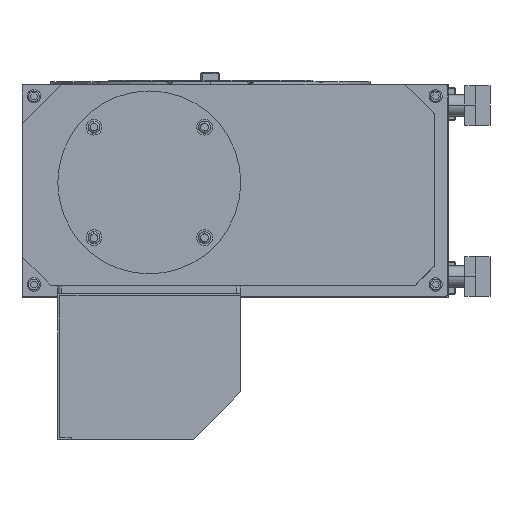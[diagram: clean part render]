
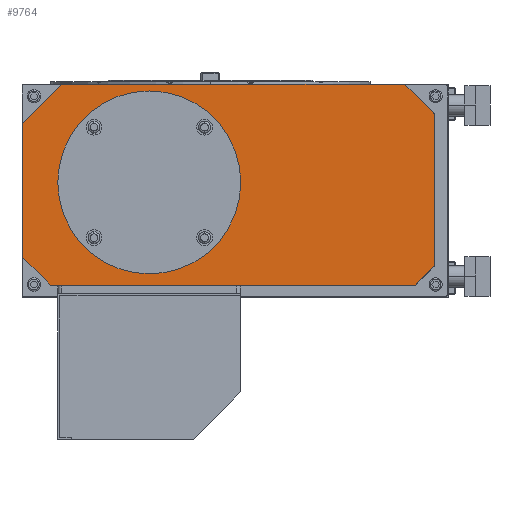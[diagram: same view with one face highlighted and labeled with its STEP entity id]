
A CAD part, left-side view. The second image highlights one B-rep face of the part: STEP entity #9764.
In plain terms, the highlighted planar face has unit normal (-1, 0, 0) as drawn and (0, 0, 1) by its records, which use the part's own axes.
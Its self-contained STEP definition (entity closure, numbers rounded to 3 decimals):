
#70 = CARTESIAN_POINT ( 'NONE',  ( -136.172, 10., 190. ) ) ;
#833 = VERTEX_POINT ( 'NONE', #70 ) ;
#1312 = ORIENTED_EDGE ( 'NONE', *, *, #115679, .F. ) ;
#2142 = ORIENTED_EDGE ( 'NONE', *, *, #82660, .F. ) ;
#2737 = ORIENTED_EDGE ( 'NONE', *, *, #99606, .F. ) ;
#2756 = DIRECTION ( 'NONE',  ( -1., 0., 0. ) ) ;
#5447 = AXIS2_PLACEMENT_3D ( 'NONE', #106042, #50886, #115313 ) ;
#5922 = DIRECTION ( 'NONE',  ( -0.707, -0.707, 0. ) ) ;
#7429 = LINE ( 'NONE', #81664, #78033 ) ;
#8724 = AXIS2_PLACEMENT_3D ( 'NONE', #83187, #28112, #92481 ) ;
#9759 = CARTESIAN_POINT ( 'NONE',  ( -2., 32.828, 190. ) ) ;
#9764 = ADVANCED_FACE ( 'NONE', ( #69126 ), #53321, .T. ) ;
#9855 = CARTESIAN_POINT ( 'NONE',  ( -30.828, 319., 190. ) ) ;
#10029 = CARTESIAN_POINT ( 'NONE',  ( -29.414, 320.414, 190. ) ) ;
#10157 = CARTESIAN_POINT ( 'NONE',  ( -152., 25.828, 190. ) ) ;
#10906 = DIRECTION ( 'NONE',  ( 0., 0., -1. ) ) ;
#11047 = VERTEX_POINT ( 'NONE', #112894 ) ;
#11217 = LINE ( 'NONE', #73168, #109245 ) ;
#12023 = CARTESIAN_POINT ( 'NONE',  ( -136.172, 12., 190. ) ) ;
#12026 = CARTESIAN_POINT ( 'NONE',  ( -152., 298.172, 190. ) ) ;
#16436 = LINE ( 'NONE', #61078, #38139 ) ;
#17656 = CARTESIAN_POINT ( 'NONE',  ( -130.586, 320.414, 190. ) ) ;
#19075 = DIRECTION ( 'NONE',  ( -1., 0., 0. ) ) ;
#19176 = DIRECTION ( 'NONE',  ( -1., 0., 0. ) ) ;
#19299 = VECTOR ( 'NONE', #30274, 1000. ) ;
#21362 = DIRECTION ( 'NONE',  ( -1., 0., 0. ) ) ;
#23260 = LINE ( 'NONE', #102274, #26171 ) ;
#23529 = AXIS2_PLACEMENT_3D ( 'NONE', #113099, #57937, #2756 ) ;
#25446 = CARTESIAN_POINT ( 'NONE',  ( -0.586, 291.586, 190. ) ) ;
#26051 = EDGE_CURVE ( 'NONE', #90408, #114547, #26841, .T. ) ;
#26171 = VECTOR ( 'NONE', #28585, 1000. ) ;
#26584 = DIRECTION ( 'NONE',  ( 0.707, 0.707, 0. ) ) ;
#26841 = CIRCLE ( 'NONE', #8724, 2. ) ;
#28112 = DIRECTION ( 'NONE',  ( 0., 0., -1. ) ) ;
#28585 = DIRECTION ( 'NONE',  ( 0., 1., 0. ) ) ;
#30274 = DIRECTION ( 'NONE',  ( 0.707, -0.707, 0. ) ) ;
#30583 = LINE ( 'NONE', #68235, #79455 ) ;
#31243 = DIRECTION ( 'NONE',  ( -1., 0., 0. ) ) ;
#32906 = ORIENTED_EDGE ( 'NONE', *, *, #45164, .F. ) ;
#34053 = CIRCLE ( 'NONE', #5447, 2. ) ;
#35681 = VERTEX_POINT ( 'NONE', #93397 ) ;
#35834 = VERTEX_POINT ( 'NONE', #105021 ) ;
#36034 = CIRCLE ( 'NONE', #118953, 2. ) ;
#37351 = EDGE_CURVE ( 'NONE', #102052, #111057, #41422, .T. ) ;
#38139 = VECTOR ( 'NONE', #5922, 1000. ) ;
#38474 = AXIS2_PLACEMENT_3D ( 'NONE', #66140, #10906, #75385 ) ;
#40043 = CARTESIAN_POINT ( 'NONE',  ( -152., 25., 190. ) ) ;
#41422 = CIRCLE ( 'NONE', #105927, 2. ) ;
#43461 = EDGE_CURVE ( 'NONE', #112045, #88260, #16436, .T. ) ;
#44236 = CIRCLE ( 'NONE', #62691, 2. ) ;
#45164 = EDGE_CURVE ( 'NONE', #117055, #93607, #55633, .T. ) ;
#46344 = EDGE_CURVE ( 'NONE', #11047, #102052, #82510, .T. ) ;
#46790 = CARTESIAN_POINT ( 'NONE',  ( 0., 32.828, 190. ) ) ;
#47080 = CARTESIAN_POINT ( 'NONE',  ( -0.586, 31.414, 190. ) ) ;
#47467 = ORIENTED_EDGE ( 'NONE', *, *, #37351, .F. ) ;
#49266 = DIRECTION ( 'NONE',  ( -0.707, 0.707, 0. ) ) ;
#50238 = ORIENTED_EDGE ( 'NONE', *, *, #67127, .F. ) ;
#50886 = DIRECTION ( 'NONE',  ( 0., 0., -1. ) ) ;
#51127 = CARTESIAN_POINT ( 'NONE',  ( -150., 25.828, 190. ) ) ;
#51226 = EDGE_CURVE ( 'NONE', #88260, #35834, #34053, .T. ) ;
#53321 = PLANE ( 'NONE',  #83913 ) ;
#54136 = CIRCLE ( 'NONE', #110164, 2. ) ;
#54645 = DIRECTION ( 'NONE',  ( 1., 0., 0. ) ) ;
#55207 = VECTOR ( 'NONE', #49266, 1000. ) ;
#55633 = CIRCLE ( 'NONE', #23529, 2. ) ;
#57642 = EDGE_CURVE ( 'NONE', #111057, #109935, #23260, .T. ) ;
#57937 = DIRECTION ( 'NONE',  ( 0., 0., -1. ) ) ;
#58246 = ORIENTED_EDGE ( 'NONE', *, *, #26051, .F. ) ;
#59845 = ORIENTED_EDGE ( 'NONE', *, *, #57642, .F. ) ;
#60400 = DIRECTION ( 'NONE',  ( -1., 0., 0. ) ) ;
#61078 = CARTESIAN_POINT ( 'NONE',  ( 0., 32., 190. ) ) ;
#61571 = CARTESIAN_POINT ( 'NONE',  ( -30.828, 321., 190. ) ) ;
#62691 = AXIS2_PLACEMENT_3D ( 'NONE', #9855, #74321, #19176 ) ;
#66140 = CARTESIAN_POINT ( 'NONE',  ( -150., 298.172, 190. ) ) ;
#67127 = EDGE_CURVE ( 'NONE', #102729, #117055, #89855, .T. ) ;
#68235 = CARTESIAN_POINT ( 'NONE',  ( -22., 10., 190. ) ) ;
#68361 = EDGE_CURVE ( 'NONE', #35834, #833, #30583, .T. ) ;
#69126 = FACE_OUTER_BOUND ( 'NONE', #106912, .T. ) ;
#71073 = DIRECTION ( 'NONE',  ( 0., 0., 1. ) ) ;
#71491 = ORIENTED_EDGE ( 'NONE', *, *, #86822, .F. ) ;
#73045 = CIRCLE ( 'NONE', #38474, 2. ) ;
#73168 = CARTESIAN_POINT ( 'NONE',  ( -30., 321., 190. ) ) ;
#74227 = DIRECTION ( 'NONE',  ( 0., 0., -1. ) ) ;
#74321 = DIRECTION ( 'NONE',  ( 0., 0., -1. ) ) ;
#75385 = DIRECTION ( 'NONE',  ( -1., 0., 0. ) ) ;
#76454 = DIRECTION ( 'NONE',  ( 0., 0., -1. ) ) ;
#78033 = VECTOR ( 'NONE', #26584, 1000. ) ;
#79455 = VECTOR ( 'NONE', #31243, 1000. ) ;
#79826 = CARTESIAN_POINT ( 'NONE',  ( -151.414, 24.414, 190. ) ) ;
#80510 = ORIENTED_EDGE ( 'NONE', *, *, #105517, .F. ) ;
#81664 = CARTESIAN_POINT ( 'NONE',  ( -130., 321., 190. ) ) ;
#82510 = LINE ( 'NONE', #40043, #55207 ) ;
#82660 = EDGE_CURVE ( 'NONE', #90236, #102729, #44236, .T. ) ;
#83143 = ORIENTED_EDGE ( 'NONE', *, *, #51226, .F. ) ;
#83187 = CARTESIAN_POINT ( 'NONE',  ( -129.172, 319., 190. ) ) ;
#83913 = AXIS2_PLACEMENT_3D ( 'NONE', #99288, #71073, #117740 ) ;
#85558 = EDGE_CURVE ( 'NONE', #833, #11047, #54136, .T. ) ;
#85782 = CARTESIAN_POINT ( 'NONE',  ( -21.414, 10.586, 190. ) ) ;
#86822 = EDGE_CURVE ( 'NONE', #35681, #90408, #7429, .T. ) ;
#88260 = VERTEX_POINT ( 'NONE', #85782 ) ;
#89327 = ORIENTED_EDGE ( 'NONE', *, *, #96204, .F. ) ;
#89855 = LINE ( 'NONE', #95053, #19299 ) ;
#90236 = VERTEX_POINT ( 'NONE', #61571 ) ;
#90408 = VERTEX_POINT ( 'NONE', #17656 ) ;
#92481 = DIRECTION ( 'NONE',  ( -1., 0., 0. ) ) ;
#93397 = CARTESIAN_POINT ( 'NONE',  ( -151.414, 299.586, 190. ) ) ;
#93607 = VERTEX_POINT ( 'NONE', #102068 ) ;
#94072 = VERTEX_POINT ( 'NONE', #46790 ) ;
#95053 = CARTESIAN_POINT ( 'NONE',  ( -30., 321., 190. ) ) ;
#96204 = EDGE_CURVE ( 'NONE', #109935, #35681, #73045, .T. ) ;
#97517 = CARTESIAN_POINT ( 'NONE',  ( 0., 291., 190. ) ) ;
#99243 = CARTESIAN_POINT ( 'NONE',  ( -129.172, 321., 190. ) ) ;
#99288 = CARTESIAN_POINT ( 'NONE',  ( 0., 0., 190. ) ) ;
#99606 = EDGE_CURVE ( 'NONE', #94072, #112045, #36034, .T. ) ;
#102052 = VERTEX_POINT ( 'NONE', #79826 ) ;
#102068 = CARTESIAN_POINT ( 'NONE',  ( 0., 290.172, 190. ) ) ;
#102274 = CARTESIAN_POINT ( 'NONE',  ( -152., 299., 190. ) ) ;
#102729 = VERTEX_POINT ( 'NONE', #10029 ) ;
#105021 = CARTESIAN_POINT ( 'NONE',  ( -22.828, 10., 190. ) ) ;
#105109 = VECTOR ( 'NONE', #106762, 1000. ) ;
#105517 = EDGE_CURVE ( 'NONE', #93607, #94072, #107992, .T. ) ;
#105927 = AXIS2_PLACEMENT_3D ( 'NONE', #51127, #115563, #60400 ) ;
#106042 = CARTESIAN_POINT ( 'NONE',  ( -22.828, 12., 190. ) ) ;
#106762 = DIRECTION ( 'NONE',  ( 0., -1., 0. ) ) ;
#106912 = EDGE_LOOP ( 'NONE', ( #71491, #89327, #59845, #47467, #107283, #108211, #108756, #83143, #112445, #2737, #80510, #32906, #50238, #2142, #1312, #58246 ) ) ;
#107283 = ORIENTED_EDGE ( 'NONE', *, *, #46344, .F. ) ;
#107992 = LINE ( 'NONE', #97517, #105109 ) ;
#108211 = ORIENTED_EDGE ( 'NONE', *, *, #85558, .F. ) ;
#108756 = ORIENTED_EDGE ( 'NONE', *, *, #68361, .F. ) ;
#109245 = VECTOR ( 'NONE', #54645, 1000. ) ;
#109935 = VERTEX_POINT ( 'NONE', #12026 ) ;
#110164 = AXIS2_PLACEMENT_3D ( 'NONE', #12023, #76454, #21362 ) ;
#111057 = VERTEX_POINT ( 'NONE', #10157 ) ;
#112045 = VERTEX_POINT ( 'NONE', #47080 ) ;
#112445 = ORIENTED_EDGE ( 'NONE', *, *, #43461, .F. ) ;
#112894 = CARTESIAN_POINT ( 'NONE',  ( -137.586, 10.586, 190. ) ) ;
#113099 = CARTESIAN_POINT ( 'NONE',  ( -2., 290.172, 190. ) ) ;
#114547 = VERTEX_POINT ( 'NONE', #99243 ) ;
#115313 = DIRECTION ( 'NONE',  ( -1., 0., 0. ) ) ;
#115563 = DIRECTION ( 'NONE',  ( 0., 0., -1. ) ) ;
#115679 = EDGE_CURVE ( 'NONE', #114547, #90236, #11217, .T. ) ;
#117055 = VERTEX_POINT ( 'NONE', #25446 ) ;
#117740 = DIRECTION ( 'NONE',  ( -1., 0., 0. ) ) ;
#118953 = AXIS2_PLACEMENT_3D ( 'NONE', #9759, #74227, #19075 ) ;
